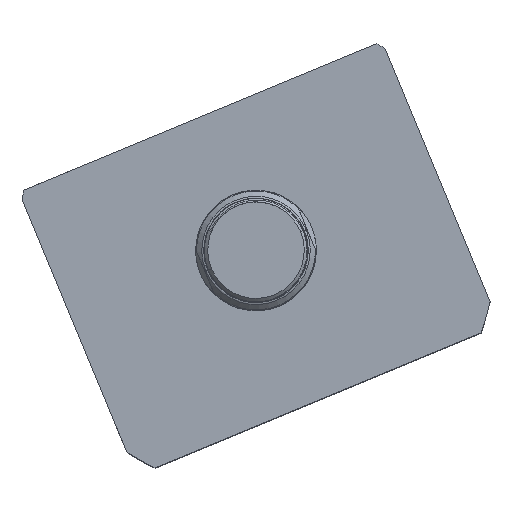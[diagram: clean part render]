
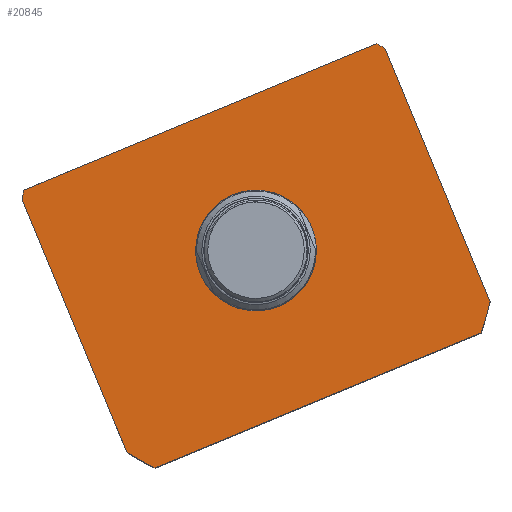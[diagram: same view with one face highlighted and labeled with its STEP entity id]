
A CAD part, top view. The second image highlights one B-rep face of the part: STEP entity #20845.
In plain terms, the highlighted planar face has unit normal (0, 0, 1) as drawn and (0, 0, -1) by its records, which use the part's own axes.
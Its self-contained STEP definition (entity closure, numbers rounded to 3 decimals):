
#346 = DIRECTION ( 'NONE',  ( 1., 0., 0. ) ) ;
#1138 = DIRECTION ( 'NONE',  ( 0., 0., 1. ) ) ;
#1887 = ORIENTED_EDGE ( 'NONE', *, *, #6368, .T. ) ;
#1960 = CARTESIAN_POINT ( 'NONE',  ( -17.5, -59.497, 0. ) ) ;
#2285 = CIRCLE ( 'NONE', #6977, 17.5 ) ;
#2293 = CIRCLE ( 'NONE', #13120, 69.5 ) ;
#2635 = PLANE ( 'NONE',  #5852 ) ;
#3300 = LINE ( 'NONE', #9830, #25159 ) ;
#3601 = DIRECTION ( 'NONE',  ( 1., 0., 0. ) ) ;
#4248 = ORIENTED_EDGE ( 'NONE', *, *, #15506, .F. ) ;
#4612 = CARTESIAN_POINT ( 'NONE',  ( 57., -19.732, 0. ) ) ;
#5431 = VECTOR ( 'NONE', #13553, 1000. ) ;
#5852 = AXIS2_PLACEMENT_3D ( 'NONE', #22183, #11640, #26467 ) ;
#6368 = EDGE_CURVE ( 'NONE', #21750, #9383, #2285, .T. ) ;
#6518 = ORIENTED_EDGE ( 'NONE', *, *, #15042, .F. ) ;
#6977 = AXIS2_PLACEMENT_3D ( 'NONE', #20495, #7813, #22616 ) ;
#7203 = ORIENTED_EDGE ( 'NONE', *, *, #11386, .F. ) ;
#7205 = CARTESIAN_POINT ( 'NONE',  ( -55.374, -17.497, 0. ) ) ;
#7526 = VERTEX_POINT ( 'NONE', #7205 ) ;
#7813 = DIRECTION ( 'NONE',  ( 0., 0., 1. ) ) ;
#8462 = EDGE_CURVE ( 'NONE', #24772, #14704, #10335, .T. ) ;
#8694 = CARTESIAN_POINT ( 'NONE',  ( 57., -99.262, 0. ) ) ;
#8742 = DIRECTION ( 'NONE',  ( 0., 0., 1. ) ) ;
#8796 = CARTESIAN_POINT ( 'NONE',  ( -57., -19.732, 0. ) ) ;
#8998 = EDGE_CURVE ( 'NONE', #21718, #24772, #11975, .T. ) ;
#9383 = VERTEX_POINT ( 'NONE', #1960 ) ;
#9830 = CARTESIAN_POINT ( 'NONE',  ( -57., -17.497, 0. ) ) ;
#10201 = ORIENTED_EDGE ( 'NONE', *, *, #10239, .F. ) ;
#10239 = EDGE_CURVE ( 'NONE', #20124, #21718, #13258, .T. ) ;
#10315 = CARTESIAN_POINT ( 'NONE',  ( 51.198, -106.497, 0. ) ) ;
#10335 = LINE ( 'NONE', #26828, #26575 ) ;
#10708 = CIRCLE ( 'NONE', #19678, 69.5 ) ;
#10846 = CARTESIAN_POINT ( 'NONE',  ( 55.374, -17.497, 0. ) ) ;
#11386 = EDGE_CURVE ( 'NONE', #26327, #15011, #19530, .T. ) ;
#11429 = DIRECTION ( 'NONE',  ( 0., 0., 1. ) ) ;
#11640 = DIRECTION ( 'NONE',  ( 0., 0., 1. ) ) ;
#11700 = FACE_OUTER_BOUND ( 'NONE', #13377, .T. ) ;
#11975 = CIRCLE ( 'NONE', #24232, 69.5 ) ;
#12011 = CARTESIAN_POINT ( 'NONE',  ( 0., -59.497, 0. ) ) ;
#12421 = ORIENTED_EDGE ( 'NONE', *, *, #20269, .F. ) ;
#13038 = DIRECTION ( 'NONE',  ( 0., 0., 1. ) ) ;
#13120 = AXIS2_PLACEMENT_3D ( 'NONE', #25744, #13038, #346 ) ;
#13258 = LINE ( 'NONE', #19430, #18247 ) ;
#13377 = EDGE_LOOP ( 'NONE', ( #7203, #27471, #12421, #23398, #19296, #10201, #6518, #4248 ) ) ;
#13553 = DIRECTION ( 'NONE',  ( 0., 1., 0. ) ) ;
#13846 = CARTESIAN_POINT ( 'NONE',  ( 0., -59.497, 0. ) ) ;
#14155 = DIRECTION ( 'NONE',  ( 1., 0., 0. ) ) ;
#14704 = VERTEX_POINT ( 'NONE', #10315 ) ;
#15011 = VERTEX_POINT ( 'NONE', #10846 ) ;
#15042 = EDGE_CURVE ( 'NONE', #7526, #20124, #2293, .T. ) ;
#15506 = EDGE_CURVE ( 'NONE', #15011, #7526, #3300, .T. ) ;
#15713 = AXIS2_PLACEMENT_3D ( 'NONE', #13846, #1138, #16000 ) ;
#16000 = DIRECTION ( 'NONE',  ( 1., 0., 0. ) ) ;
#17218 = CARTESIAN_POINT ( 'NONE',  ( 17.5, -59.497, 0. ) ) ;
#18062 = CIRCLE ( 'NONE', #15713, 17.5 ) ;
#18247 = VECTOR ( 'NONE', #21554, 1000. ) ;
#18263 = AXIS2_PLACEMENT_3D ( 'NONE', #21402, #8742, #23538 ) ;
#19237 = CARTESIAN_POINT ( 'NONE',  ( -57., -99.262, 0. ) ) ;
#19296 = ORIENTED_EDGE ( 'NONE', *, *, #8998, .F. ) ;
#19339 = EDGE_CURVE ( 'NONE', #24371, #26327, #22320, .T. ) ;
#19430 = CARTESIAN_POINT ( 'NONE',  ( -57., -17.497, 0. ) ) ;
#19530 = CIRCLE ( 'NONE', #18263, 69.5 ) ;
#19643 = ORIENTED_EDGE ( 'NONE', *, *, #26742, .T. ) ;
#19678 = AXIS2_PLACEMENT_3D ( 'NONE', #12011, #26841, #14155 ) ;
#20124 = VERTEX_POINT ( 'NONE', #8796 ) ;
#20269 = EDGE_CURVE ( 'NONE', #14704, #24371, #10708, .T. ) ;
#20495 = CARTESIAN_POINT ( 'NONE',  ( 0., -59.497, 0. ) ) ;
#20845 = ADVANCED_FACE ( 'NONE', ( #22951, #11700 ), #2635, .F. ) ;
#21402 = CARTESIAN_POINT ( 'NONE',  ( 0., -59.497, 0. ) ) ;
#21554 = DIRECTION ( 'NONE',  ( 0., -1., 0. ) ) ;
#21718 = VERTEX_POINT ( 'NONE', #19237 ) ;
#21750 = VERTEX_POINT ( 'NONE', #17218 ) ;
#22183 = CARTESIAN_POINT ( 'NONE',  ( 0., 0., 0. ) ) ;
#22320 = LINE ( 'NONE', #26249, #5431 ) ;
#22616 = DIRECTION ( 'NONE',  ( 1., 0., 0. ) ) ;
#22951 = FACE_BOUND ( 'NONE', #23543, .T. ) ;
#23398 = ORIENTED_EDGE ( 'NONE', *, *, #8462, .F. ) ;
#23538 = DIRECTION ( 'NONE',  ( 1., 0., 0. ) ) ;
#23543 = EDGE_LOOP ( 'NONE', ( #1887, #19643 ) ) ;
#24123 = CARTESIAN_POINT ( 'NONE',  ( 0., -59.497, 0. ) ) ;
#24232 = AXIS2_PLACEMENT_3D ( 'NONE', #24123, #11429, #26252 ) ;
#24371 = VERTEX_POINT ( 'NONE', #8694 ) ;
#24607 = CARTESIAN_POINT ( 'NONE',  ( -51.198, -106.497, 0. ) ) ;
#24772 = VERTEX_POINT ( 'NONE', #24607 ) ;
#25159 = VECTOR ( 'NONE', #26858, 1000. ) ;
#25744 = CARTESIAN_POINT ( 'NONE',  ( 0., -59.497, 0. ) ) ;
#26249 = CARTESIAN_POINT ( 'NONE',  ( 57., -17.497, 0. ) ) ;
#26252 = DIRECTION ( 'NONE',  ( 1., 0., 0. ) ) ;
#26327 = VERTEX_POINT ( 'NONE', #4612 ) ;
#26467 = DIRECTION ( 'NONE',  ( 1., 0., 0. ) ) ;
#26575 = VECTOR ( 'NONE', #3601, 1000. ) ;
#26742 = EDGE_CURVE ( 'NONE', #9383, #21750, #18062, .T. ) ;
#26828 = CARTESIAN_POINT ( 'NONE',  ( -57., -106.497, 0. ) ) ;
#26841 = DIRECTION ( 'NONE',  ( 0., 0., 1. ) ) ;
#26858 = DIRECTION ( 'NONE',  ( -1., 0., 0. ) ) ;
#27471 = ORIENTED_EDGE ( 'NONE', *, *, #19339, .F. ) ;
